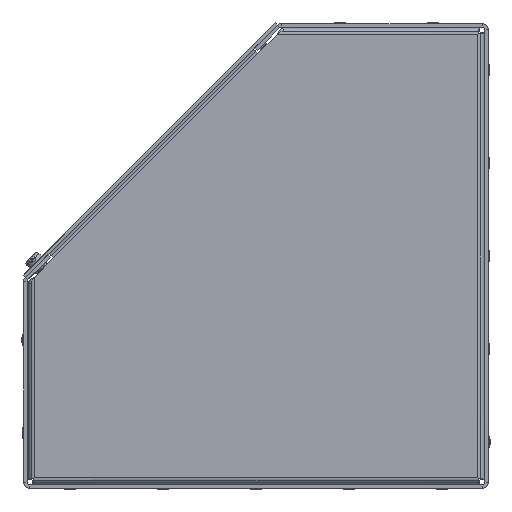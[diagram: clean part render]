
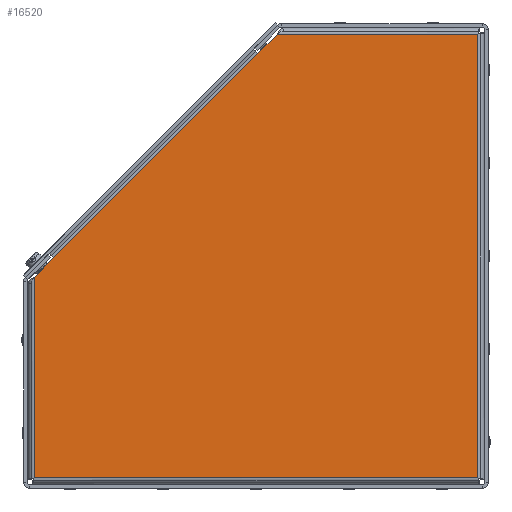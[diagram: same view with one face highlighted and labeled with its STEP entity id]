
A CAD part, left-side view. The second image highlights one B-rep face of the part: STEP entity #16520.
In plain terms, the highlighted planar face has unit normal (-1, 0, 0) as drawn and (1, 0, 0) by its records, which use the part's own axes.
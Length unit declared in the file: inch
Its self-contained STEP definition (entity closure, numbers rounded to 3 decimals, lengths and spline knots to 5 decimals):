
#31 = LINE ( 'NONE', #21538, #17564 ) ;
#179 = VERTEX_POINT ( 'NONE', #14754 ) ;
#464 = CARTESIAN_POINT ( 'NONE',  ( 0., 0., -9.552 ) ) ;
#741 = EDGE_CURVE ( 'NONE', #179, #5286, #1747, .T. ) ;
#937 = VECTOR ( 'NONE', #21738, 39.37008 ) ;
#1215 = ORIENTED_EDGE ( 'NONE', *, *, #13560, .T. ) ;
#1322 = CARTESIAN_POINT ( 'NONE',  ( 0., 9.552, -5.234 ) ) ;
#1747 = LINE ( 'NONE', #2788, #9711 ) ;
#2181 = LINE ( 'NONE', #19326, #10678 ) ;
#2321 = FACE_OUTER_BOUND ( 'NONE', #11489, .T. ) ;
#2788 = CARTESIAN_POINT ( 'NONE',  ( 0., 0., 0. ) ) ;
#2814 = VECTOR ( 'NONE', #10653, 39.37008 ) ;
#2932 = VERTEX_POINT ( 'NONE', #9512 ) ;
#4100 = VERTEX_POINT ( 'NONE', #6648 ) ;
#4480 = DIRECTION ( 'NONE',  ( 1., 0., 0. ) ) ;
#4509 = DIRECTION ( 'NONE',  ( 0., 0., -1. ) ) ;
#4621 = DIRECTION ( 'NONE',  ( 0., 1., 0. ) ) ;
#5031 = EDGE_CURVE ( 'NONE', #5286, #4100, #31, .T. ) ;
#5194 = CARTESIAN_POINT ( 'NONE',  ( 0., 9.552, -9.552 ) ) ;
#5286 = VERTEX_POINT ( 'NONE', #464 ) ;
#5464 = LINE ( 'NONE', #1322, #937 ) ;
#6640 = VERTEX_POINT ( 'NONE', #19332 ) ;
#6648 = CARTESIAN_POINT ( 'NONE',  ( 0., 9.552, -9.552 ) ) ;
#7023 = LINE ( 'NONE', #7396, #19525 ) ;
#7396 = CARTESIAN_POINT ( 'NONE',  ( 0., 9.552, -5.234 ) ) ;
#7764 = CARTESIAN_POINT ( 'NONE',  ( 0., 9.13092, -4.81292 ) ) ;
#8912 = AXIS2_PLACEMENT_3D ( 'NONE', #21390, #4480, #16339 ) ;
#8935 = CARTESIAN_POINT ( 'NONE',  ( 0., 9.13092, -4.81292 ) ) ;
#9016 = DIRECTION ( 'NONE',  ( 0., -0.707, 0.707 ) ) ;
#9512 = CARTESIAN_POINT ( 'NONE',  ( 0., 4.73908, -0.42108 ) ) ;
#9541 = EDGE_CURVE ( 'NONE', #2932, #16254, #7023, .T. ) ;
#9711 = VECTOR ( 'NONE', #4509, 39.37008 ) ;
#10310 = EDGE_CURVE ( 'NONE', #6640, #20546, #5464, .T. ) ;
#10373 = DIRECTION ( 'NONE',  ( 0., 0., 1. ) ) ;
#10483 = CARTESIAN_POINT ( 'NONE',  ( 0., 4.318, 0. ) ) ;
#10653 = DIRECTION ( 'NONE',  ( 0., -0.707, 0.707 ) ) ;
#10678 = VECTOR ( 'NONE', #19396, 39.37008 ) ;
#11489 = EDGE_LOOP ( 'NONE', ( #14128, #16115, #17263, #1215, #17310, #21770, #13633 ) ) ;
#11717 = VECTOR ( 'NONE', #10373, 39.37008 ) ;
#13076 = EDGE_CURVE ( 'NONE', #16254, #179, #2181, .T. ) ;
#13560 = EDGE_CURVE ( 'NONE', #4100, #6640, #16241, .T. ) ;
#13633 = ORIENTED_EDGE ( 'NONE', *, *, #9541, .T. ) ;
#14128 = ORIENTED_EDGE ( 'NONE', *, *, #13076, .T. ) ;
#14617 = PLANE ( 'NONE',  #8912 ) ;
#14754 = CARTESIAN_POINT ( 'NONE',  ( 0., 0., 0. ) ) ;
#15267 = LINE ( 'NONE', #8935, #2814 ) ;
#16115 = ORIENTED_EDGE ( 'NONE', *, *, #741, .T. ) ;
#16241 = LINE ( 'NONE', #5194, #11717 ) ;
#16254 = VERTEX_POINT ( 'NONE', #10483 ) ;
#16339 = DIRECTION ( 'NONE',  ( 0., 0., -1. ) ) ;
#16520 = ADVANCED_FACE ( 'NONE', ( #2321 ), #14617, .T. ) ;
#17263 = ORIENTED_EDGE ( 'NONE', *, *, #5031, .T. ) ;
#17310 = ORIENTED_EDGE ( 'NONE', *, *, #10310, .T. ) ;
#17564 = VECTOR ( 'NONE', #4621, 39.37008 ) ;
#19326 = CARTESIAN_POINT ( 'NONE',  ( 0., 4.318, 0. ) ) ;
#19332 = CARTESIAN_POINT ( 'NONE',  ( 0., 9.552, -5.234 ) ) ;
#19396 = DIRECTION ( 'NONE',  ( 0., -1., 0. ) ) ;
#19525 = VECTOR ( 'NONE', #9016, 39.37008 ) ;
#20546 = VERTEX_POINT ( 'NONE', #7764 ) ;
#21018 = EDGE_CURVE ( 'NONE', #20546, #2932, #15267, .T. ) ;
#21390 = CARTESIAN_POINT ( 'NONE',  ( 0., 0., 0. ) ) ;
#21538 = CARTESIAN_POINT ( 'NONE',  ( 0., 0., -9.552 ) ) ;
#21738 = DIRECTION ( 'NONE',  ( 0., -0.707, 0.707 ) ) ;
#21770 = ORIENTED_EDGE ( 'NONE', *, *, #21018, .T. ) ;
